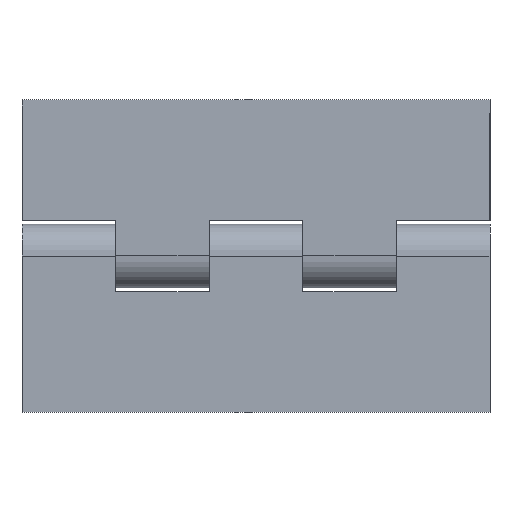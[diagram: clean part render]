
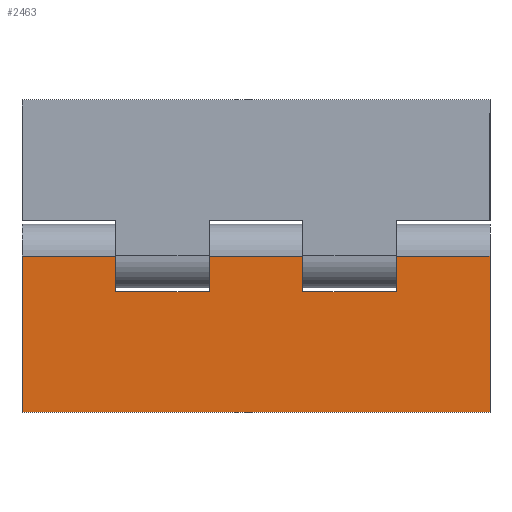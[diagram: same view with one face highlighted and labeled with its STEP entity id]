
A CAD part, front view. The second image highlights one B-rep face of the part: STEP entity #2463.
In plain terms, the highlighted planar face has unit normal (0, -1, 0).
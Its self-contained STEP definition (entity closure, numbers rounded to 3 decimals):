
#23 = EDGE_CURVE ( 'NONE', #2483, #1535, #930, .T. ) ;
#37 = VECTOR ( 'NONE', #1898, 1000. ) ;
#102 = EDGE_CURVE ( 'NONE', #998, #1626, #2017, .T. ) ;
#107 = VECTOR ( 'NONE', #2335, 1000. ) ;
#119 = LINE ( 'NONE', #2288, #37 ) ;
#125 = ORIENTED_EDGE ( 'NONE', *, *, #102, .T. ) ;
#158 = LINE ( 'NONE', #1352, #987 ) ;
#166 = CARTESIAN_POINT ( 'NONE',  ( -27., 0., -6.85 ) ) ;
#176 = ORIENTED_EDGE ( 'NONE', *, *, #378, .T. ) ;
#292 = CARTESIAN_POINT ( 'NONE',  ( -9., 0., 0. ) ) ;
#374 = CARTESIAN_POINT ( 'NONE',  ( 27., 0., -6.85 ) ) ;
#378 = EDGE_CURVE ( 'NONE', #1626, #2382, #2348, .T. ) ;
#385 = DIRECTION ( 'NONE',  ( 0., 1., 0. ) ) ;
#411 = DIRECTION ( 'NONE',  ( -1., 0., 0. ) ) ;
#414 = EDGE_LOOP ( 'NONE', ( #1771, #2171, #125, #176, #2101, #1468, #2493, #1505, #2202, #1765, #1977, #654 ) ) ;
#427 = VECTOR ( 'NONE', #1400, 1000. ) ;
#460 = VERTEX_POINT ( 'NONE', #827 ) ;
#527 = CARTESIAN_POINT ( 'NONE',  ( 45., 0., 0. ) ) ;
#536 = DIRECTION ( 'NONE',  ( 0., 0., 1. ) ) ;
#545 = VERTEX_POINT ( 'NONE', #2422 ) ;
#582 = DIRECTION ( 'NONE',  ( -1., 0., 0. ) ) ;
#596 = CARTESIAN_POINT ( 'NONE',  ( 27., 0., 0. ) ) ;
#654 = ORIENTED_EDGE ( 'NONE', *, *, #739, .T. ) ;
#739 = EDGE_CURVE ( 'NONE', #2456, #545, #1317, .T. ) ;
#779 = CARTESIAN_POINT ( 'NONE',  ( 45., 0., 0. ) ) ;
#792 = EDGE_CURVE ( 'NONE', #1950, #998, #909, .T. ) ;
#827 = CARTESIAN_POINT ( 'NONE',  ( -45., 0., 0. ) ) ;
#888 = LINE ( 'NONE', #1042, #1406 ) ;
#909 = LINE ( 'NONE', #779, #1479 ) ;
#919 = CARTESIAN_POINT ( 'NONE',  ( 9., 0., 0. ) ) ;
#930 = LINE ( 'NONE', #1724, #1518 ) ;
#954 = AXIS2_PLACEMENT_3D ( 'NONE', #2534, #385, #1585 ) ;
#956 = DIRECTION ( 'NONE',  ( -1., 0., 0. ) ) ;
#973 = LINE ( 'NONE', #527, #2321 ) ;
#987 = VECTOR ( 'NONE', #1965, 1000. ) ;
#998 = VERTEX_POINT ( 'NONE', #292 ) ;
#1007 = DIRECTION ( 'NONE',  ( -1., 0., 0. ) ) ;
#1042 = CARTESIAN_POINT ( 'NONE',  ( 9., 0., 6.15 ) ) ;
#1087 = CARTESIAN_POINT ( 'NONE',  ( -27., 0., 0. ) ) ;
#1188 = CARTESIAN_POINT ( 'NONE',  ( 27., 0., 6.15 ) ) ;
#1234 = VECTOR ( 'NONE', #411, 1000. ) ;
#1249 = CARTESIAN_POINT ( 'NONE',  ( 45., 0., 0. ) ) ;
#1279 = CARTESIAN_POINT ( 'NONE',  ( -45., 0., -30. ) ) ;
#1317 = LINE ( 'NONE', #1540, #107 ) ;
#1352 = CARTESIAN_POINT ( 'NONE',  ( -45., 0., 0. ) ) ;
#1355 = VERTEX_POINT ( 'NONE', #1249 ) ;
#1400 = DIRECTION ( 'NONE',  ( 0., 0., -1. ) ) ;
#1406 = VECTOR ( 'NONE', #2482, 1000. ) ;
#1468 = ORIENTED_EDGE ( 'NONE', *, *, #2097, .T. ) ;
#1479 = VECTOR ( 'NONE', #1007, 1000. ) ;
#1505 = ORIENTED_EDGE ( 'NONE', *, *, #23, .F. ) ;
#1518 = VECTOR ( 'NONE', #582, 1000. ) ;
#1535 = VERTEX_POINT ( 'NONE', #1279 ) ;
#1540 = CARTESIAN_POINT ( 'NONE',  ( 9., 0., -6.85 ) ) ;
#1585 = DIRECTION ( 'NONE',  ( 0., 0., 1. ) ) ;
#1626 = VERTEX_POINT ( 'NONE', #1981 ) ;
#1677 = CARTESIAN_POINT ( 'NONE',  ( -27., 0., -6.85 ) ) ;
#1724 = CARTESIAN_POINT ( 'NONE',  ( 45., 0., -30. ) ) ;
#1737 = CARTESIAN_POINT ( 'NONE',  ( 45., 0., -30. ) ) ;
#1752 = FACE_OUTER_BOUND ( 'NONE', #414, .T. ) ;
#1765 = ORIENTED_EDGE ( 'NONE', *, *, #1897, .T. ) ;
#1771 = ORIENTED_EDGE ( 'NONE', *, *, #1894, .T. ) ;
#1779 = CARTESIAN_POINT ( 'NONE',  ( -9., 0., 6.15 ) ) ;
#1790 = DIRECTION ( 'NONE',  ( 0., 0., -1. ) ) ;
#1886 = VERTEX_POINT ( 'NONE', #1087 ) ;
#1894 = EDGE_CURVE ( 'NONE', #545, #1950, #888, .T. ) ;
#1897 = EDGE_CURVE ( 'NONE', #1355, #2130, #119, .T. ) ;
#1898 = DIRECTION ( 'NONE',  ( -1., 0., 0. ) ) ;
#1907 = LINE ( 'NONE', #2460, #2443 ) ;
#1934 = PLANE ( 'NONE',  #954 ) ;
#1950 = VERTEX_POINT ( 'NONE', #919 ) ;
#1963 = EDGE_CURVE ( 'NONE', #1355, #2483, #973, .T. ) ;
#1965 = DIRECTION ( 'NONE',  ( 0., 0., -1. ) ) ;
#1977 = ORIENTED_EDGE ( 'NONE', *, *, #2551, .T. ) ;
#1981 = CARTESIAN_POINT ( 'NONE',  ( -9., 0., -6.85 ) ) ;
#2005 = EDGE_CURVE ( 'NONE', #460, #1535, #158, .T. ) ;
#2017 = LINE ( 'NONE', #1779, #427 ) ;
#2097 = EDGE_CURVE ( 'NONE', #1886, #460, #2208, .T. ) ;
#2101 = ORIENTED_EDGE ( 'NONE', *, *, #2360, .T. ) ;
#2130 = VERTEX_POINT ( 'NONE', #596 ) ;
#2133 = DIRECTION ( 'NONE',  ( 0., 0., -1. ) ) ;
#2134 = VECTOR ( 'NONE', #956, 1000. ) ;
#2171 = ORIENTED_EDGE ( 'NONE', *, *, #792, .T. ) ;
#2202 = ORIENTED_EDGE ( 'NONE', *, *, #1963, .F. ) ;
#2208 = LINE ( 'NONE', #2406, #1234 ) ;
#2288 = CARTESIAN_POINT ( 'NONE',  ( 45., 0., 0. ) ) ;
#2321 = VECTOR ( 'NONE', #2133, 1000. ) ;
#2335 = DIRECTION ( 'NONE',  ( -1., 0., 0. ) ) ;
#2348 = LINE ( 'NONE', #166, #2134 ) ;
#2360 = EDGE_CURVE ( 'NONE', #2382, #1886, #1907, .T. ) ;
#2382 = VERTEX_POINT ( 'NONE', #1677 ) ;
#2406 = CARTESIAN_POINT ( 'NONE',  ( 45., 0., 0. ) ) ;
#2422 = CARTESIAN_POINT ( 'NONE',  ( 9., 0., -6.85 ) ) ;
#2443 = VECTOR ( 'NONE', #536, 1000. ) ;
#2456 = VERTEX_POINT ( 'NONE', #374 ) ;
#2460 = CARTESIAN_POINT ( 'NONE',  ( -27., 0., 6.15 ) ) ;
#2463 = ADVANCED_FACE ( 'NONE', ( #1752 ), #1934, .F. ) ;
#2482 = DIRECTION ( 'NONE',  ( 0., 0., 1. ) ) ;
#2483 = VERTEX_POINT ( 'NONE', #1737 ) ;
#2493 = ORIENTED_EDGE ( 'NONE', *, *, #2005, .T. ) ;
#2534 = CARTESIAN_POINT ( 'NONE',  ( 45., 0., 0. ) ) ;
#2536 = VECTOR ( 'NONE', #1790, 1000. ) ;
#2551 = EDGE_CURVE ( 'NONE', #2130, #2456, #2560, .T. ) ;
#2560 = LINE ( 'NONE', #1188, #2536 ) ;
